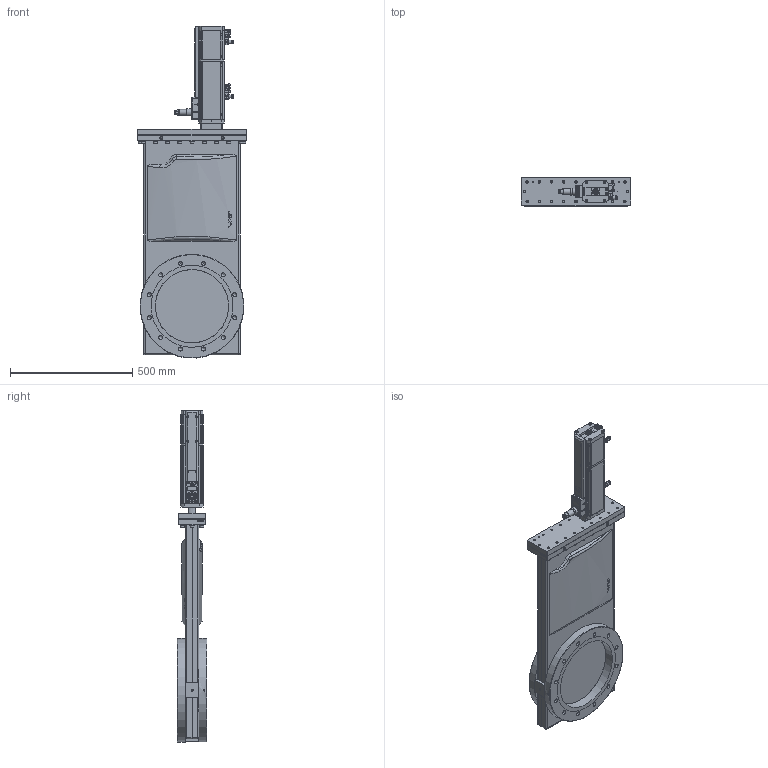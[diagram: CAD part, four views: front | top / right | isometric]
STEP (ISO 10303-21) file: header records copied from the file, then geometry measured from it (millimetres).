
FILE_DESCRIPTION(/* description */ (''),/* implementation_level */ '2;1');
FILE_NAME(/* name */ '1093526650_203.stp',/* time_stamp */ '2015-02-06T09:51:18+01:00',/* author */ (''),/* organization */ (''),/* preprocessor_version */ 'ST-DEVELOPER v11',/* originating_system */ 'SIEMENS PLM Software NX 7.5',/* authorisation */ '');
FILE_SCHEMA (('AP203_CONFIGURATION_CONTROLLED_3D_DESIGN_OF_MECHANICAL_PARTS_AND_ASSEMBLIES_MIM_LF'));
Products named in the file (52): n-6005-535.1_21247ID; 65664-01.2_21231ID; 467882; 437235; 65664-01.2_20681ID; 457464_20672ID; 457464_20670ID; 386293_20679ID; N-6005-437.1; N-6005-477.1; N-6005-473.1; 72979-01.1; 72846-01.1; 495271; 73692-01.1; 495253; 70738-01.1; 73691-01.1; 495255; 87609-01.1; N-7557-016_1.1; N-7557-018.1; N-7557-016_2.1; N-6024-524.1; N-5018-005.1; 70973-01.1; 464926; n-8504-002; n-6024-548.1; 87172-01.1; 74628-01.3; 65313-01.1; 86824-01.2; 245752.1_20677ID; 245752.1_53064ID; 86831.2; 752549; n-6134-410; 218206.1; 752564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
Assembly tree (114 placements, depth 4):
  774353
    325646.1_MODEL
      386313_MODEL
        386293_20679ID
        457464_20670ID
        457464_20672ID
      86831.2  x3
      245752.1_53064ID
      245752.1_20677ID
    752520_NX-ARRAGMNTMASSBILD
      86824-01.2
      65313-01.1
      74628-01.3
    752564
    94239-r1.5
      87172-01.1  x4
      94226-01.2
        65664-01.2_20681ID
    772120_MODEL
      n-6024-548.1  x4
      n-8504-002
      464926
      70973-01.1
    94800-R1.7_NX-ARRAGMNTKONFIG1  x2
      N-5018-005.1
      N-6024-524.1
      N-7557-016_2.1
      N-7557-018.1
      N-7557-016_1.1
      N-7557-016_3.1_MODELNX-ARRAGMNTArrangement 1
        437235
        467882
    218206.1  x20
    n-6134-410  x20
    752549
    495275
      87609-01.1  x4
      495255
      73691-01.1
      70738-01.1
      495253
      73692-01.1
      495271
      72846-01.1
      72979-01.1
      N-6005-473.1  x2
      N-6005-477.1  x4
      N-6005-437.1  x4
      94313-01.2
        65664-01.2_21231ID
      87606-01.1
        n-6005-535.1_21247ID
Bounding box: 448 x 120 x 1357.84 mm (x, y, z)
Volume: 14301757.6 mm3; surface area: 2986967.1 mm2
Topology: 178 solids, 178 shells, 3440 faces, 8280 edges, 5400 vertices
Faces by surface type: plane 2045, cylinder 862, cone 216, extrusion 117, torus 116, bspline 46, sphere 38
Full cylindrical faces by diameter (mm): 0.4 x1, 1.2 x1, 1.66 x7, 2 x1, 2.125 x1, 2.5 x10, 2.65 x1, 3 x20, 3.2 x4, 3.26 x4, 3.3 x14, 3.4 x8, 3.5 x6, 4 x16, 4.2 x5, 4.22 x2, 4.3 x6, 4.35 x2, 4.4 x8, 4.45 x4, 4.5 x2, 4.6 x2, 4.96 x6, 5 x20, 5.2 x4, 5.5 x2, 5.9 x1, 5.99 x2, 6 x37, 6.25 x2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
Entity records: 79822 total; most frequent: CARTESIAN_POINT 19064, ORIENTED_EDGE 9508, DIRECTION 9406, EDGE_CURVE 4754, AXIS2_PLACEMENT_3D 3539, VERTEX_POINT 3394, EDGE_LOOP 2994, VECTOR 2328
